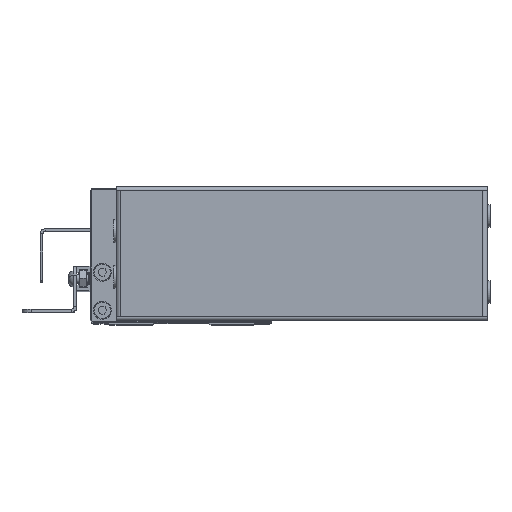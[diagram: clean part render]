
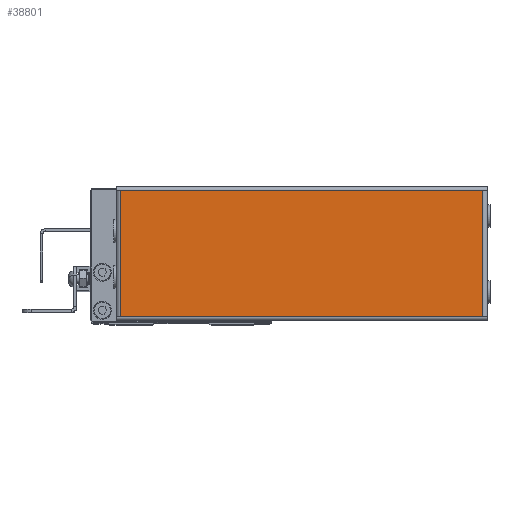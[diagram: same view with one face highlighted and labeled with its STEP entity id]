
A CAD part, top view. The second image highlights one B-rep face of the part: STEP entity #38801.
In plain terms, the highlighted planar face has unit normal (0, 0, 1) as drawn and (0, 0, -1) by its records, which use the part's own axes.
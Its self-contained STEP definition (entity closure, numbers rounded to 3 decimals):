
#1691 = ORIENTED_EDGE ( 'NONE', *, *, #2479, .T. ) ;
#1881 = CARTESIAN_POINT ( 'NONE',  ( 120.5, 42.7, -1. ) ) ;
#2454 = EDGE_CURVE ( 'NONE', #10956, #25046, #8344, .T. ) ;
#2479 = EDGE_CURVE ( 'NONE', #18667, #42936, #5437, .T. ) ;
#5339 = DIRECTION ( 'NONE',  ( 0., 1., 0. ) ) ;
#5437 = LINE ( 'NONE', #1881, #25511 ) ;
#7838 = DIRECTION ( 'NONE',  ( -1., 0., 0. ) ) ;
#8344 = LINE ( 'NONE', #46084, #45638 ) ;
#10680 = CARTESIAN_POINT ( 'NONE',  ( 0., 42.7, -1. ) ) ;
#10956 = VERTEX_POINT ( 'NONE', #28570 ) ;
#12315 = CARTESIAN_POINT ( 'NONE',  ( 120.5, 42.7, -1. ) ) ;
#14877 = CARTESIAN_POINT ( 'NONE',  ( 0., 0., -1. ) ) ;
#15057 = EDGE_CURVE ( 'NONE', #25046, #18667, #46843, .T. ) ;
#16394 = ORIENTED_EDGE ( 'NONE', *, *, #2454, .T. ) ;
#17098 = EDGE_CURVE ( 'NONE', #42936, #10956, #35955, .T. ) ;
#18197 = CARTESIAN_POINT ( 'NONE',  ( 1.5, 42.7, -1. ) ) ;
#18667 = VERTEX_POINT ( 'NONE', #12315 ) ;
#18911 = EDGE_LOOP ( 'NONE', ( #48180, #1691, #27213, #16394 ) ) ;
#24406 = PLANE ( 'NONE',  #55606 ) ;
#25046 = VERTEX_POINT ( 'NONE', #18197 ) ;
#25511 = VECTOR ( 'NONE', #51964, 1000. ) ;
#26707 = VECTOR ( 'NONE', #57224, 1000. ) ;
#27213 = ORIENTED_EDGE ( 'NONE', *, *, #17098, .T. ) ;
#28570 = CARTESIAN_POINT ( 'NONE',  ( 1.5, 1.3, -1. ) ) ;
#28838 = FACE_OUTER_BOUND ( 'NONE', #18911, .T. ) ;
#29046 = DIRECTION ( 'NONE',  ( 0., 0., -1. ) ) ;
#35502 = CARTESIAN_POINT ( 'NONE',  ( 122., 1.3, -1. ) ) ;
#35955 = LINE ( 'NONE', #35502, #44622 ) ;
#38479 = DIRECTION ( 'NONE',  ( -1., 0., 0. ) ) ;
#38801 = ADVANCED_FACE ( 'NONE', ( #28838 ), #24406, .T. ) ;
#42936 = VERTEX_POINT ( 'NONE', #58214 ) ;
#44622 = VECTOR ( 'NONE', #7838, 1000. ) ;
#45638 = VECTOR ( 'NONE', #5339, 1000. ) ;
#46084 = CARTESIAN_POINT ( 'NONE',  ( 1.5, 1.3, -1. ) ) ;
#46843 = LINE ( 'NONE', #10680, #26707 ) ;
#48180 = ORIENTED_EDGE ( 'NONE', *, *, #15057, .T. ) ;
#51964 = DIRECTION ( 'NONE',  ( 0., -1., 0. ) ) ;
#55606 = AXIS2_PLACEMENT_3D ( 'NONE', #14877, #29046, #38479 ) ;
#57224 = DIRECTION ( 'NONE',  ( 1., 0., 0. ) ) ;
#58214 = CARTESIAN_POINT ( 'NONE',  ( 120.5, 1.3, -1. ) ) ;
